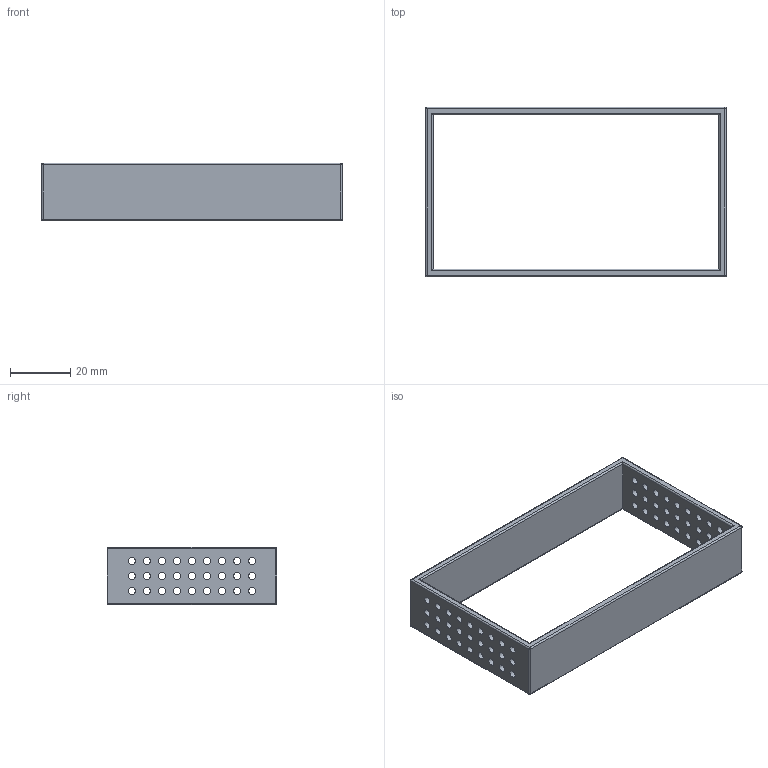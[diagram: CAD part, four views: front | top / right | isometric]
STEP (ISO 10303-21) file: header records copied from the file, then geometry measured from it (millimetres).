
FILE_DESCRIPTION(/* description */ (''),/* implementation_level */ '2;1');
FILE_NAME(/* name */ 'C:/Users/priba/Downloads/arm-link-mid100.step',/* time_stamp */ '2022-04-03T23:57:29+02:00',/* author */ (''),/* organization */ (''),/* preprocessor_version */ 'ST-DEVELOPER v18.1',/* originating_system */ 'Autodesk Translation Framework v10.13.0.1454',/* authorisation */ '');
FILE_SCHEMA (('AUTOMOTIVE_DESIGN { 1 0 10303 214 3 1 1 }'));
Length unit declared in the file: millimetre
Products named in the file (1): arm-link-mid100
Bounding box: 100 x 56.35 x 19.09 mm (x, y, z)
Volume: 13770.7 mm3; surface area: 13330.2 mm2
Topology: 1 solids, 1 shells, 89 faces, 233 edges, 146 vertices
Faces by surface type: cylinder 73, plane 10, sphere 6
Full cylindrical faces by diameter (mm): 2.4 x54
Entity records: 3032 total; most frequent: DIRECTION 549, CARTESIAN_POINT 469, ORIENTED_EDGE 466, EDGE_CURVE 233, AXIS2_PLACEMENT_3D 226, EDGE_LOOP 199, VERTEX_POINT 146, CIRCLE 126
